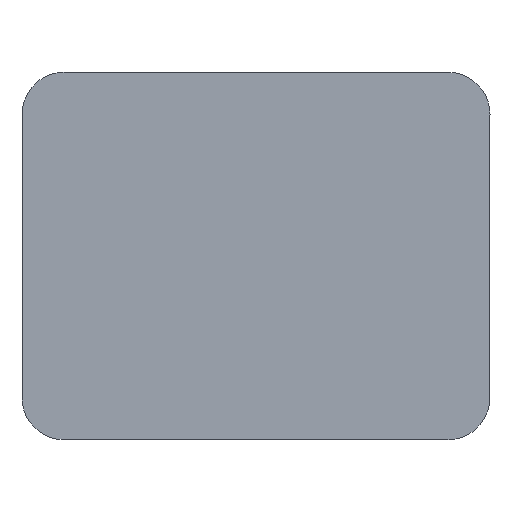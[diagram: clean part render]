
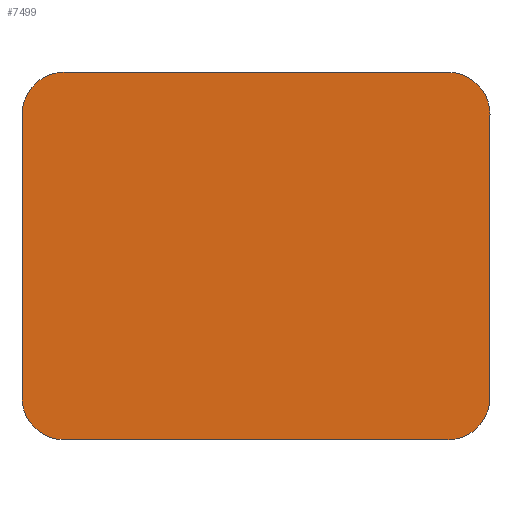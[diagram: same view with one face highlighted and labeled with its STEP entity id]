
A CAD part, front view. The second image highlights one B-rep face of the part: STEP entity #7499.
In plain terms, the highlighted planar face has unit normal (0, -1, 0).
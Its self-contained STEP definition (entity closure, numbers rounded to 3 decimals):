
#192 = CARTESIAN_POINT ( 'NONE',  ( 279.298, 55., 172.229 ) ) ;
#225 = ORIENTED_EDGE ( 'NONE', *, *, #9567, .F. ) ;
#421 = CARTESIAN_POINT ( 'NONE',  ( -238.877, 55., -218.708 ) ) ;
#440 = CARTESIAN_POINT ( 'NONE',  ( 274.813, 55., -191.595 ) ) ;
#610 = CARTESIAN_POINT ( 'NONE',  ( -251.537, 55., -214.872 ) ) ;
#625 = CARTESIAN_POINT ( 'NONE',  ( -238.877, 55., 218.591 ) ) ;
#702 = ORIENTED_EDGE ( 'NONE', *, *, #10311, .F. ) ;
#703 = ORIENTED_EDGE ( 'NONE', *, *, #11582, .F. ) ;
#1040 = LINE ( 'NONE', #7650, #4091 ) ;
#1604 = CARTESIAN_POINT ( 'NONE',  ( 265.496, 55., 205.437 ) ) ;
#1825 = CARTESIAN_POINT ( 'NONE',  ( 279.298, 55., 168.943 ) ) ;
#1833 = CARTESIAN_POINT ( 'NONE',  ( -229.002, 55., 219.24 ) ) ;
#1838 = CARTESIAN_POINT ( 'NONE',  ( -229.002, 55., -219.357 ) ) ;
#1856 = CARTESIAN_POINT ( 'NONE',  ( -265.496, 55., 205.437 ) ) ;
#1903 = CARTESIAN_POINT ( 'NONE',  ( -232.288, 55., -219.357 ) ) ;
#2325 = EDGE_CURVE ( 'NONE', #6304, #16999, #12574, .T. ) ;
#2585 = LINE ( 'NONE', #7260, #14491 ) ;
#3082 = CARTESIAN_POINT ( 'NONE',  ( 274.813, 55., 191.478 ) ) ;
#3144 = EDGE_CURVE ( 'NONE', #12283, #12047, #5963, .T. ) ;
#3156 = CARTESIAN_POINT ( 'NONE',  ( 251.537, 55., 214.755 ) ) ;
#3188 = ORIENTED_EDGE ( 'NONE', *, *, #14050, .F. ) ;
#3205 = CARTESIAN_POINT ( 'NONE',  ( -279.298, 55., -169.06 ) ) ;
#3338 = CARTESIAN_POINT ( 'NONE',  ( -279.298, 55., 168.943 ) ) ;
#3400 = CARTESIAN_POINT ( 'NONE',  ( -232.288, 55., 219.24 ) ) ;
#3457 = VERTEX_POINT ( 'NONE', #5477 ) ;
#4091 = VECTOR ( 'NONE', #5029, 1000. ) ;
#4307 = DIRECTION ( 'NONE',  ( 0., 0., -1. ) ) ;
#4361 = CARTESIAN_POINT ( 'NONE',  ( 279.298, 55., -169.06 ) ) ;
#4592 = CARTESIAN_POINT ( 'NONE',  ( 279.298, 55., -169.06 ) ) ;
#4714 = DIRECTION ( 'NONE',  ( 0., 1., 0. ) ) ;
#4716 = ORIENTED_EDGE ( 'NONE', *, *, #3144, .F. ) ;
#4718 = CARTESIAN_POINT ( 'NONE',  ( 265.496, 55., -205.554 ) ) ;
#5029 = DIRECTION ( 'NONE',  ( -1., 0., 0. ) ) ;
#5137 = B_SPLINE_CURVE_WITH_KNOTS ( 'NONE', 3,
 ( #4592, #7333, #17014, #440, #4718, #14156, #15786, #5847, #14280 ),
 .UNSPECIFIED., .F., .F.,
 ( 4, 1, 1, 1, 1, 1, 4 ),
 ( 2.357, 2.553, 2.749, 3.142, 3.534, 3.73, 3.927 ),
 .UNSPECIFIED. ) ;
#5141 = CARTESIAN_POINT ( 'NONE',  ( 229.002, 55., 219.24 ) ) ;
#5477 = CARTESIAN_POINT ( 'NONE',  ( -279.298, 55., -169.06 ) ) ;
#5847 = CARTESIAN_POINT ( 'NONE',  ( 232.288, 55., -219.357 ) ) ;
#5903 = CARTESIAN_POINT ( 'NONE',  ( -279.298, 55., 172.229 ) ) ;
#5963 = B_SPLINE_CURVE_WITH_KNOTS ( 'NONE', 3,
 ( #15530, #11378, #14035, #3156, #1604, #3082, #9981, #192, #17009 ),
 .UNSPECIFIED., .F., .F.,
 ( 4, 1, 1, 1, 1, 1, 4 ),
 ( 2.357, 2.553, 2.749, 3.142, 3.534, 3.73, 3.927 ),
 .UNSPECIFIED. ) ;
#6155 = CARTESIAN_POINT ( 'NONE',  ( -278.65, 55., 178.819 ) ) ;
#6304 = VERTEX_POINT ( 'NONE', #13780 ) ;
#6395 = VERTEX_POINT ( 'NONE', #17469 ) ;
#6958 = CARTESIAN_POINT ( 'NONE',  ( -279.298, 55., 168.943 ) ) ;
#7260 = CARTESIAN_POINT ( 'NONE',  ( 229.002, 55., 219.24 ) ) ;
#7333 = CARTESIAN_POINT ( 'NONE',  ( 279.298, 55., -172.346 ) ) ;
#7421 = EDGE_CURVE ( 'NONE', #3457, #6304, #15302, .T. ) ;
#7499 = ADVANCED_FACE ( 'NONE', ( #17503 ), #15346, .F. ) ;
#7609 = CARTESIAN_POINT ( 'NONE',  ( -274.813, 55., -191.595 ) ) ;
#7650 = CARTESIAN_POINT ( 'NONE',  ( -229.002, 55., -219.357 ) ) ;
#8472 = DIRECTION ( 'NONE',  ( 1., 0., 0. ) ) ;
#8511 = VERTEX_POINT ( 'NONE', #4361 ) ;
#8700 = CARTESIAN_POINT ( 'NONE',  ( -274.813, 55., 191.478 ) ) ;
#8749 = CARTESIAN_POINT ( 'NONE',  ( -265.496, 55., -205.554 ) ) ;
#8766 = CARTESIAN_POINT ( 'NONE',  ( -229.002, 55., 219.24 ) ) ;
#8790 = VERTEX_POINT ( 'NONE', #14794 ) ;
#9270 = ORIENTED_EDGE ( 'NONE', *, *, #2325, .F. ) ;
#9567 = EDGE_CURVE ( 'NONE', #6395, #8790, #1040, .T. ) ;
#9911 = VECTOR ( 'NONE', #12955, 1000. ) ;
#9918 = EDGE_LOOP ( 'NONE', ( #16981, #702, #4716, #3188, #9270, #10191, #703, #225 ) ) ;
#9981 = CARTESIAN_POINT ( 'NONE',  ( 278.65, 55., 178.819 ) ) ;
#10191 = ORIENTED_EDGE ( 'NONE', *, *, #7421, .F. ) ;
#10311 = EDGE_CURVE ( 'NONE', #12047, #8511, #16200, .T. ) ;
#10412 = AXIS2_PLACEMENT_3D ( 'NONE', #13012, #4714, #15784 ) ;
#11378 = CARTESIAN_POINT ( 'NONE',  ( 232.288, 55., 219.24 ) ) ;
#11538 = CARTESIAN_POINT ( 'NONE',  ( -279.298, 55., -172.346 ) ) ;
#11582 = EDGE_CURVE ( 'NONE', #8790, #3457, #12649, .T. ) ;
#12047 = VERTEX_POINT ( 'NONE', #1825 ) ;
#12283 = VERTEX_POINT ( 'NONE', #5141 ) ;
#12574 = B_SPLINE_CURVE_WITH_KNOTS ( 'NONE', 3,
 ( #3338, #5903, #6155, #8700, #1856, #14333, #625, #3400, #8766 ),
 .UNSPECIFIED., .F., .F.,
 ( 4, 1, 1, 1, 1, 1, 4 ),
 ( 2.357, 2.553, 2.749, 3.142, 3.534, 3.73, 3.927 ),
 .UNSPECIFIED. ) ;
#12601 = CARTESIAN_POINT ( 'NONE',  ( 279.298, 55., -169.06 ) ) ;
#12649 = B_SPLINE_CURVE_WITH_KNOTS ( 'NONE', 3,
 ( #1838, #1903, #421, #610, #8749, #7609, #14318, #11538, #3205 ),
 .UNSPECIFIED., .F., .F.,
 ( 4, 1, 1, 1, 1, 1, 4 ),
 ( 2.357, 2.553, 2.749, 3.142, 3.534, 3.73, 3.927 ),
 .UNSPECIFIED. ) ;
#12955 = DIRECTION ( 'NONE',  ( 0., 0., 1. ) ) ;
#13012 = CARTESIAN_POINT ( 'NONE',  ( 264.567, 55., -204.626 ) ) ;
#13780 = CARTESIAN_POINT ( 'NONE',  ( -279.298, 55., 168.943 ) ) ;
#14035 = CARTESIAN_POINT ( 'NONE',  ( 238.877, 55., 218.591 ) ) ;
#14050 = EDGE_CURVE ( 'NONE', #16999, #12283, #2585, .T. ) ;
#14156 = CARTESIAN_POINT ( 'NONE',  ( 251.537, 55., -214.872 ) ) ;
#14280 = CARTESIAN_POINT ( 'NONE',  ( 229.002, 55., -219.357 ) ) ;
#14318 = CARTESIAN_POINT ( 'NONE',  ( -278.65, 55., -178.936 ) ) ;
#14333 = CARTESIAN_POINT ( 'NONE',  ( -251.537, 55., 214.755 ) ) ;
#14491 = VECTOR ( 'NONE', #8472, 1000. ) ;
#14794 = CARTESIAN_POINT ( 'NONE',  ( -229.002, 55., -219.357 ) ) ;
#15302 = LINE ( 'NONE', #6958, #9911 ) ;
#15346 = PLANE ( 'NONE',  #10412 ) ;
#15530 = CARTESIAN_POINT ( 'NONE',  ( 229.002, 55., 219.24 ) ) ;
#15784 = DIRECTION ( 'NONE',  ( 0., 0., 1. ) ) ;
#15786 = CARTESIAN_POINT ( 'NONE',  ( 238.877, 55., -218.708 ) ) ;
#16200 = LINE ( 'NONE', #12601, #17511 ) ;
#16647 = EDGE_CURVE ( 'NONE', #8511, #6395, #5137, .T. ) ;
#16981 = ORIENTED_EDGE ( 'NONE', *, *, #16647, .F. ) ;
#16999 = VERTEX_POINT ( 'NONE', #1833 ) ;
#17009 = CARTESIAN_POINT ( 'NONE',  ( 279.298, 55., 168.943 ) ) ;
#17014 = CARTESIAN_POINT ( 'NONE',  ( 278.65, 55., -178.936 ) ) ;
#17469 = CARTESIAN_POINT ( 'NONE',  ( 229.002, 55., -219.357 ) ) ;
#17503 = FACE_OUTER_BOUND ( 'NONE', #9918, .T. ) ;
#17511 = VECTOR ( 'NONE', #4307, 1000. ) ;
